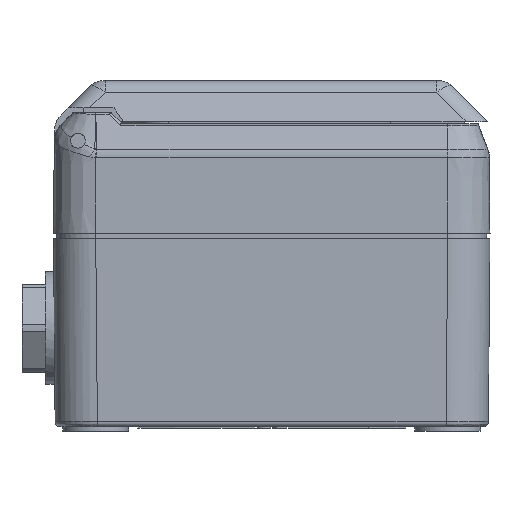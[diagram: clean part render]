
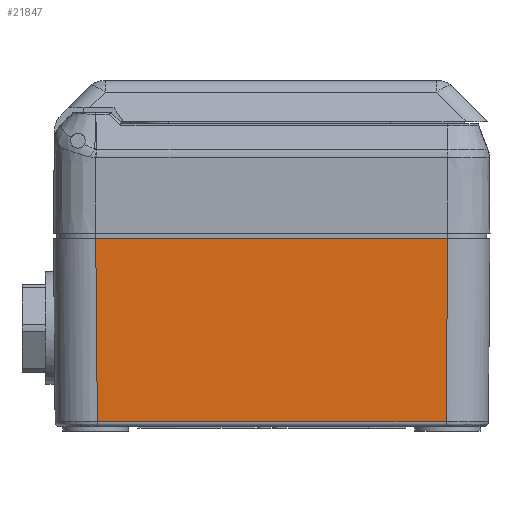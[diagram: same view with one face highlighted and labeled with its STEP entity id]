
A CAD part, left-side view. The second image highlights one B-rep face of the part: STEP entity #21847.
In plain terms, the highlighted planar face has unit normal (-1, 0, -0.009).
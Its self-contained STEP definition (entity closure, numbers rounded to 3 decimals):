
#4339=DIRECTION('',(0.,1.,0.));
#4340=VECTOR('',#4339,74.299);
#4341=CARTESIAN_POINT('',(-89.899,-37.149,
-45.409));
#4342=LINE('845',#4341,#4340);
#4346=DIRECTION('',(0.009,-0.009,-1.));
#4347=VECTOR('',#4346,39.012);
#4348=CARTESIAN_POINT('',(-90.24,37.49,-6.4));
#4349=LINE('858',#4348,#4347);
#4353=DIRECTION('',(0.,-1.,0.));
#4354=VECTOR('',#4353,74.98);
#4355=CARTESIAN_POINT('',(-90.24,37.49,-6.4));
#4356=LINE('701',#4355,#4354);
#4360=DIRECTION('',(0.009,0.009,-1.));
#4361=VECTOR('',#4360,39.012);
#4362=CARTESIAN_POINT('',(-90.24,-37.49,-6.4));
#4363=LINE('855',#4362,#4361);
#6121=CARTESIAN_POINT('',(-89.899,37.149,
-45.409));
#14090=CARTESIAN_POINT('',(-90.24,37.49,-6.4));
#14091=CARTESIAN_POINT('',(-90.24,-37.49,-6.4));
#14092=VERTEX_POINT('',#14090);
#14093=VERTEX_POINT('',#14091);
#14283=VERTEX_POINT('',#6121);
#14286=CARTESIAN_POINT('',(-89.899,-37.149,
-45.409));
#14287=VERTEX_POINT('',#14286);
#21833=CARTESIAN_POINT('',(-90.25,48.7,-5.2));
#21834=DIRECTION('',(-1.,0.,-0.009));
#21835=DIRECTION('',(0.,-1.,0.));
#21836=AXIS2_PLACEMENT_3D('',#21833,#21834,#21835);
#21837=PLANE('31',#21836);
#21839=ORIENTED_EDGE('845',*,*,#21838,.T.);
#21841=ORIENTED_EDGE('858',*,*,#21840,.F.);
#21842=ORIENTED_EDGE('701',*,*,#21778,.T.);
#21844=ORIENTED_EDGE('855',*,*,#21843,.T.);
#21845=EDGE_LOOP('31',(#21839,#21841,#21842,#21844));
#21846=FACE_OUTER_BOUND('31',#21845,.F.);
#21778=EDGE_CURVE('701',#14092,#14093,#4356,.T.);
#21838=EDGE_CURVE('845',#14287,#14283,#4342,.T.);
#21840=EDGE_CURVE('858',#14092,#14283,#4349,.T.);
#21843=EDGE_CURVE('855',#14093,#14287,#4363,.T.);
#21847=ADVANCED_FACE('31',(#21846),#21837,.T.);
